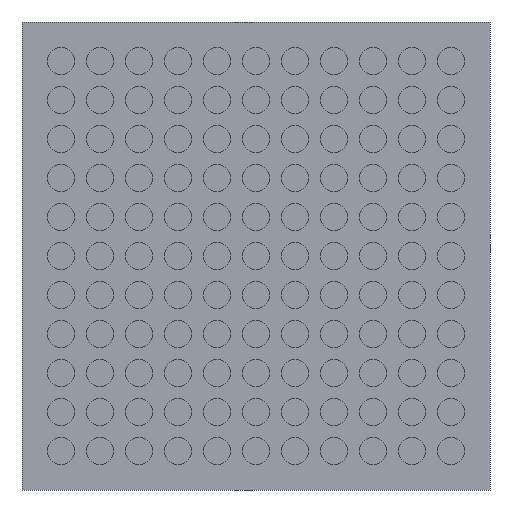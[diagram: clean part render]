
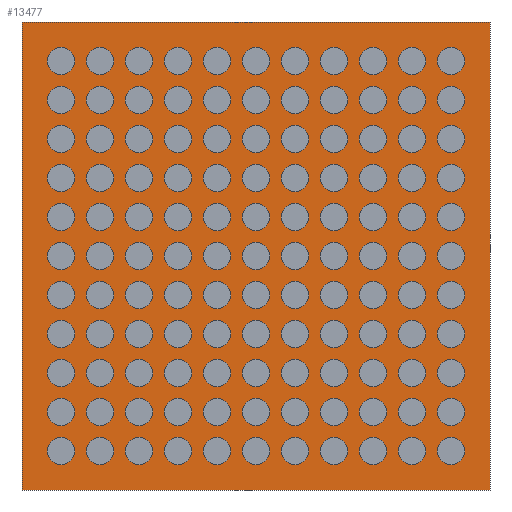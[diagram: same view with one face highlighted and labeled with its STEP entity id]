
A CAD part, front view. The second image highlights one B-rep face of the part: STEP entity #13477.
In plain terms, the highlighted planar face has unit normal (0, -1, 0).
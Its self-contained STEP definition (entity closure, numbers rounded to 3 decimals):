
#13330 = CARTESIAN_POINT ( 'NONE',  ( 3., 0.05, 3. ) ) ;
#13331 = VERTEX_POINT ( 'NONE', #13330 ) ;
#13332 = CARTESIAN_POINT ( 'NONE',  ( 3., 0.05, -3. ) ) ;
#13333 = VERTEX_POINT ( 'NONE', #13332 ) ;
#13334 = CARTESIAN_POINT ( 'NONE',  ( 3., 0.05, 3. ) ) ;
#13335 = DIRECTION ( 'NONE',  ( 0., 0., -1. ) ) ;
#13336 = VECTOR ( 'NONE', #13335, 1000. ) ;
#13337 = LINE ( 'NONE', #13334, #13336 ) ;
#13338 = EDGE_CURVE ( 'NONE', #13331, #13333, #13337, .T. ) ;
#13370 = CARTESIAN_POINT ( 'NONE',  ( -3., 0.05, -3. ) ) ;
#13371 = VERTEX_POINT ( 'NONE', #13370 ) ;
#13372 = CARTESIAN_POINT ( 'NONE',  ( -3., 0.05, -3. ) ) ;
#13373 = DIRECTION ( 'NONE',  ( -1., 0., 0. ) ) ;
#13374 = VECTOR ( 'NONE', #13373, 1000. ) ;
#13375 = LINE ( 'NONE', #13372, #13374 ) ;
#13376 = EDGE_CURVE ( 'NONE', #13333, #13371, #13375, .T. ) ;
#13401 = CARTESIAN_POINT ( 'NONE',  ( -3., 0.05, 3. ) ) ;
#13402 = VERTEX_POINT ( 'NONE', #13401 ) ;
#13403 = CARTESIAN_POINT ( 'NONE',  ( -3., 0.05, 3. ) ) ;
#13404 = DIRECTION ( 'NONE',  ( 0., 0., 1. ) ) ;
#13405 = VECTOR ( 'NONE', #13404, 1000. ) ;
#13406 = LINE ( 'NONE', #13403, #13405 ) ;
#13407 = EDGE_CURVE ( 'NONE', #13371, #13402, #13406, .T. ) ;
#13432 = CARTESIAN_POINT ( 'NONE',  ( -3., 0.05, 3. ) ) ;
#13433 = DIRECTION ( 'NONE',  ( 1., 0., 0. ) ) ;
#13434 = VECTOR ( 'NONE', #13433, 1000. ) ;
#13435 = LINE ( 'NONE', #13432, #13434 ) ;
#13436 = EDGE_CURVE ( 'NONE', #13402, #13331, #13435, .T. ) ;
#13466 = ORIENTED_EDGE ( 'NONE', *, *, #13338, .F. ) ;
#13467 = ORIENTED_EDGE ( 'NONE', *, *, #13436, .F. ) ;
#13468 = ORIENTED_EDGE ( 'NONE', *, *, #13407, .F. ) ;
#13469 = ORIENTED_EDGE ( 'NONE', *, *, #13376, .F. ) ;
#13470 = EDGE_LOOP ( 'NONE', ( #13466, #13467, #13468, #13469 ) ) ;
#13471 = FACE_OUTER_BOUND ( 'NONE', #13470, .T. ) ;
#13472 = CARTESIAN_POINT ( 'NONE',  ( 0., 0.05, 0. ) ) ;
#13473 = DIRECTION ( 'NONE',  ( 0., -1., 0. ) ) ;
#13474 = DIRECTION ( 'NONE',  ( 0., 0., -1. ) ) ;
#13475 = AXIS2_PLACEMENT_3D ( 'NONE', #13472, #13473, #13474 ) ;
#13476 = PLANE ( 'NONE', #13475 ) ;
#13477 = ADVANCED_FACE ( 'NONE', ( #13471 ), #13476, .T. ) ;
